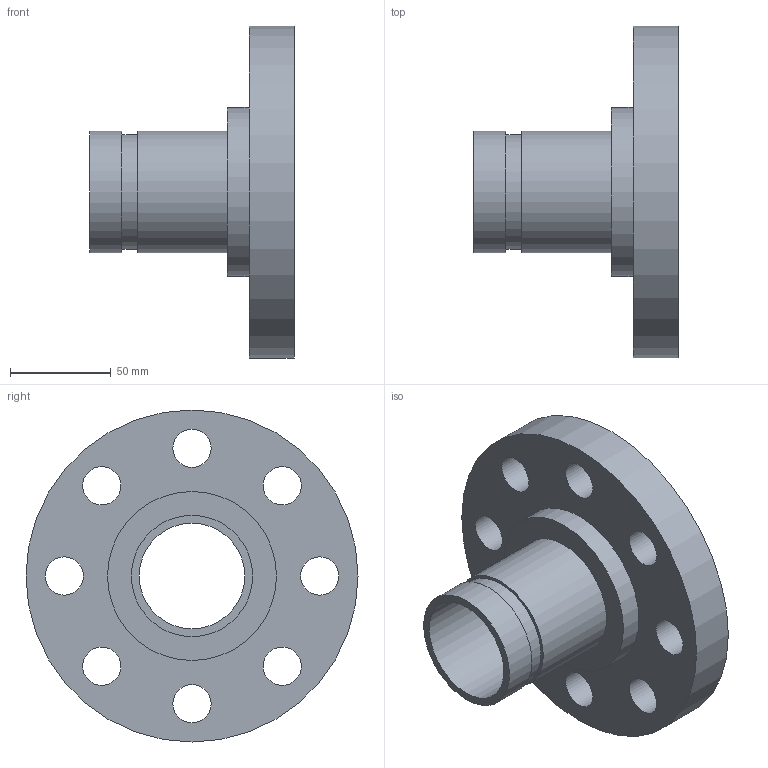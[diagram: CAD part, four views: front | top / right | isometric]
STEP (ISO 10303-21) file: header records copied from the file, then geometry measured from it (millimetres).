
FILE_DESCRIPTION(/* description */ ('VIC FLANGE ADAPTER No 46F','CAx-IF Rec.Pracs.---Representation and Presentation of Product Manufacturing Information (PMI)---4.0---2014-10-13'),/* implementation_level */ '2;1');
FILE_NAME(/* name */ 'C:\Users\kkamble\AppData\Roaming\Autodesk\ApplicationPlugins\Back Up\Victaulic_IPS_Flanged Adapter Nipple_CL 300 FF_No 46F (OGSxFLG)\Victaulic_IPS_Flanged Adapter Nipple_CL 300 FF_No 46F (OGSxFLG)_2 (50).stp',/* time_stamp */ '2020-07-26T22:24:41+06:00',/* author */ ('CONSTRUCTION PIPING SERVICES'),/* organization */ ('Victaulic'),/* preprocessor_version */ 'ST-DEVELOPER v17.2',/* originating_system */ 'Autodesk Inventor 2019',/* authorisation */ '');
FILE_SCHEMA (('AP242_MANAGED_MODEL_BASED_3D_ENGINEERING_MIM_LF { 1 0 10303 442 1 1 4 }'));
Length unit declared in the file: inch
Products named in the file (1): 046F-02.0
Bounding box: 101.6 x 165.1 x 165.1 mm (x, y, z)
Volume: 461190.3 mm3; surface area: 89319.8 mm2
Topology: 1 solids, 1 shells, 20 faces, 54 edges, 40 vertices
Faces by surface type: cylinder 14, plane 6
Full cylindrical faces by diameter (mm): 19.05 x8, 52.502 x1, 57.15 x1, 60.325 x2, 84.074 x1, 165.1 x1
Entity records: 782 total; most frequent: DIRECTION 136, CARTESIAN_POINT 115, ORIENTED_EDGE 108, AXIS2_PLACEMENT_3D 61, EDGE_CURVE 54, EDGE_LOOP 42, CIRCLE 40, VERTEX_POINT 40
